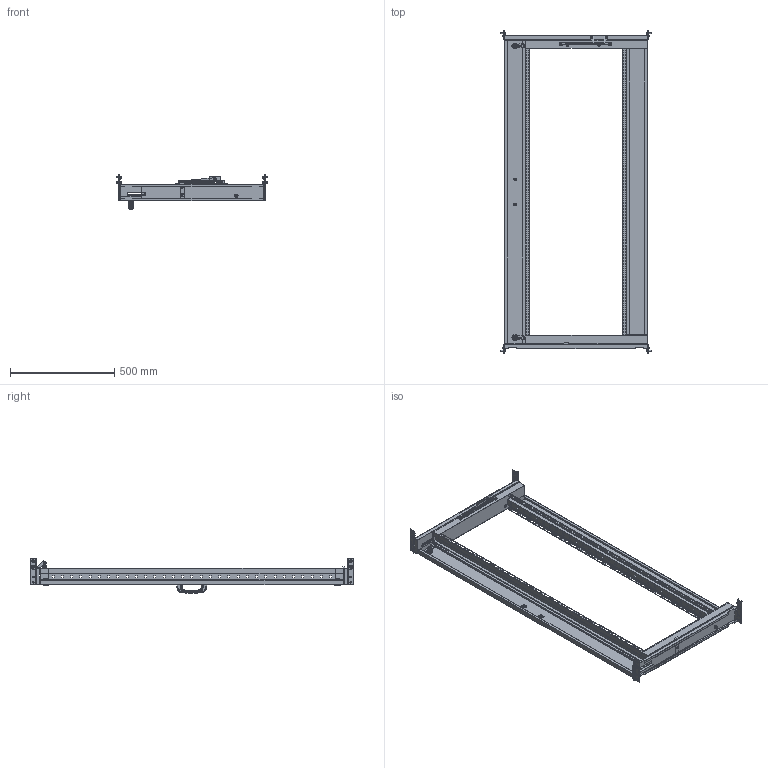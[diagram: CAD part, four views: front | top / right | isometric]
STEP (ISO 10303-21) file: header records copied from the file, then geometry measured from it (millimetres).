
FILE_DESCRIPTION(('Open CASCADE Model'),'2;1');
FILE_NAME('Open CASCADE Shape Model','2025-03-20T11:29:05',('Author'),( 'Open CASCADE'),'Open CASCADE STEP processor 7.8','Open CASCADE 7.8' ,'Unknown');
FILE_SCHEMA(('AUTOMOTIVE_DESIGN { 1 0 10303 214 1 1 1 1 }'));
Length unit declared in the file: millimetre
Products named in the file (36): Compound1; Compound2; Solid1; Solid2; Solid3; Compound3; Solid4; Solid5; Solid6; Solid7; Solid8; Solid9; Solid10; Solid11; Solid12; Solid13; Solid14; Solid15; Solid16; Solid17; Solid18; Compound4; Solid19; Solid20; Solid21; Solid22; Solid23; Solid24; Solid25; Solid26; Solid27; Compound5; Solid28; Solid29; Solid30; Solid31
Assembly tree (57 placements, depth 3):
  Compound1
    Compound2
      Solid1
      Solid2  x2
      Solid3
    Compound3
      Solid4
      Solid2  x2
      Solid3
    Solid5  x2
    Solid6  x2
    Solid7
    Solid8
    Solid9
    Solid10
    Solid11
    Solid12
    Solid13  x2
    Solid14  x4
    Solid15  x8
    Solid16
    Solid17  x2
    Solid18  x2
    Compound4
      Solid19
      Solid20
      Solid21
      Solid22  x2
      Solid23
      Solid24
      Solid25
      Solid26  x2
      Solid27  x2
    Compound5
      Solid28
      Solid29
    Solid30
    Solid31
Bounding box: 726 x 1555 x 165.5 mm (x, y, z)
Volume: 2237399.4 mm3; surface area: 2832853.1 mm2
Topology: 55 solids, 75 shells, 5655 faces, 15776 edges, 10205 vertices
Faces by surface type: plane 3534, cylinder 728, bspline 672, cone 467, torus 176, sphere 78
Entity records: 169507 total; most frequent: CARTESIAN_POINT 56981, ORIENTED_EDGE 24662, DIRECTION 20113, EDGE_CURVE 12510, LINE 8993, VECTOR 8993, VERTEX_POINT 8131, AXIS2_PLACEMENT_3D 5560
